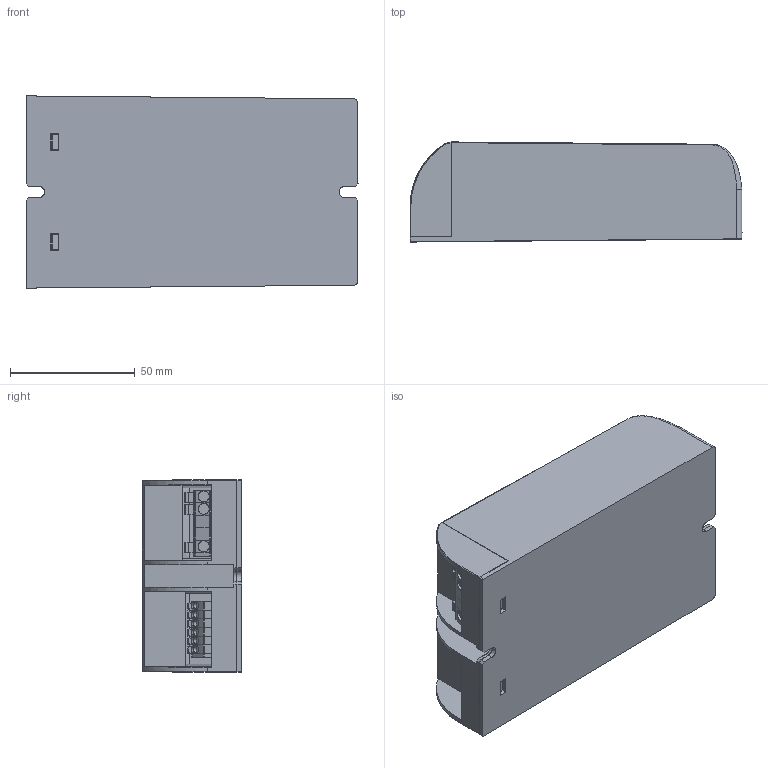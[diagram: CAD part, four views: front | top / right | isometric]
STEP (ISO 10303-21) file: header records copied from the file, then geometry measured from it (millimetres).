
FILE_DESCRIPTION((''),'2;1');
FILE_NAME('EUCI-040105GLA_ASM','2021-11-22T',('HUNGCHI.CHEN'),(''),'CREO PARAMETRIC BY PTC INC, 2018220','CREO PARAMETRIC BY PTC INC, 2018220','');
FILE_SCHEMA(('CONFIG_CONTROL_DESIGN'));
Products named in the file (23): 3994030800_20180515_1_1; 3994030900_20180515_1_1; 3D_EUCI-075105GLA_1_ASM_2_ASM_1_ASM; PWB-N_1_1_1; PWB_WAGO_ASS_1_ASM_2_ASM_1_ASM; EUCI-040105GLA_PWBA_ASM_4_ASM_1_ASM; 3D_EUCI-040105GLA_ASM_3_ASM_1_ASM; 250-1_RED_12; 250-1_BLACK_12; 250-1-LBLUE_12; 2501WHITE_12; 250-1_BLUE_12; 250-1_LBLUE2_12; 250-C_12; 250-6_ASM_12_ASM; 804-1_BLACK_12; 804-1_WHITE_12; 804-0_GRAY_12; 804-1_GREEN_12; 804-C_12; 804-5_ASM_12_ASM; 3D_EUCI-040105GLB_ASS_ASM_2_ASM; EUCI-040105GLA_ASM
Assembly tree (23 placements, depth 6):
  EUCI-040105GLA_ASM
    3D_EUCI-040105GLB_ASS_ASM_2_ASM
      3D_EUCI-040105GLA_ASM_3_ASM_1_ASM
        3D_EUCI-075105GLA_1_ASM_2_ASM_1_ASM
          3994030800_20180515_1_1
          3994030900_20180515_1_1
        EUCI-040105GLA_PWBA_ASM_4_ASM_1_ASM
          PWB_WAGO_ASS_1_ASM_2_ASM_1_ASM
            PWB-N_1_1_1
      250-6_ASM_12_ASM
        250-1_RED_12
        250-1_BLACK_12
        250-1-LBLUE_12
        2501WHITE_12
        250-1_BLUE_12
        250-1_LBLUE2_12
        250-C_12
      804-5_ASM_12_ASM
        804-1_BLACK_12
        804-1_WHITE_12
        804-0_GRAY_12  x2
        804-1_GREEN_12
        804-C_12
Bounding box: 133.02 x 39.99 x 76.99 mm (x, y, z)
Volume: 87530.6 mm3; surface area: 98055.3 mm2
Topology: 16 solids, 16 shells, 879 faces, 2412 edges, 1578 vertices
Faces by surface type: plane 666, cylinder 172, cone 23, bspline 8, extrusion 4, sphere 4, torus 2
Entity records: 29686 total; most frequent: CARTESIAN_POINT 7276, ORIENTED_EDGE 4750, DIRECTION 4311, EDGE_CURVE 2375, VECTOR 1911, LINE 1907, VERTEX_POINT 1556, AXIS2_PLACEMENT_3D 1200
